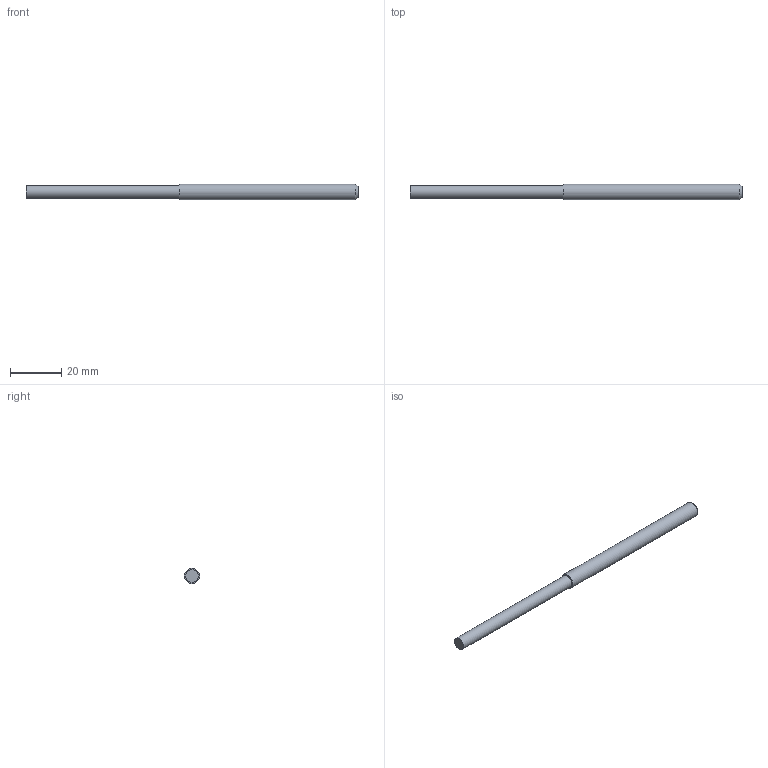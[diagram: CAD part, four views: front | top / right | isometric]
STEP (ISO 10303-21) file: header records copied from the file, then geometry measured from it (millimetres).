
FILE_DESCRIPTION(/* description */ (''),/* implementation_level */ '2;1');
FILE_NAME(/* name */ 'C:\Evgeny\Noga Works\_Noga MT Brush\solidcam\CROSS-HOLES D5 UF2150.stp',/* time_stamp */ '2025-03-23T08:37:07+02:00',/* author */ ('evgeny'),/* organization */ (''),/* preprocessor_version */ 'ST-DEVELOPER v20',/* originating_system */ 'Autodesk Inventor 2022',/* authorisation */ '');
FILE_SCHEMA (('AUTOMOTIVE_DESIGN { 1 0 10303 214 3 1 1 }'));
Length unit declared in the file: millimetre
Products named in the file (1): CROSS-HOLES D7 UF2170
Bounding box: 130 x 6 x 6 mm (x, y, z)
Volume: 3148.9 mm3; surface area: 2345.4 mm2
Topology: 2 solids, 2 shells, 7 faces, 9 edges, 6 vertices
Faces by surface type: plane 4, cylinder 2, cone 1
Full cylindrical faces by diameter (mm): 5 x1, 6 x1
Entity records: 198 total; most frequent: DIRECTION 31, CARTESIAN_POINT 23, ORIENTED_EDGE 18, AXIS2_PLACEMENT_3D 14, EDGE_CURVE 9, FACE_OUTER_BOUND 7, EDGE_LOOP 7, ADVANCED_FACE 7
